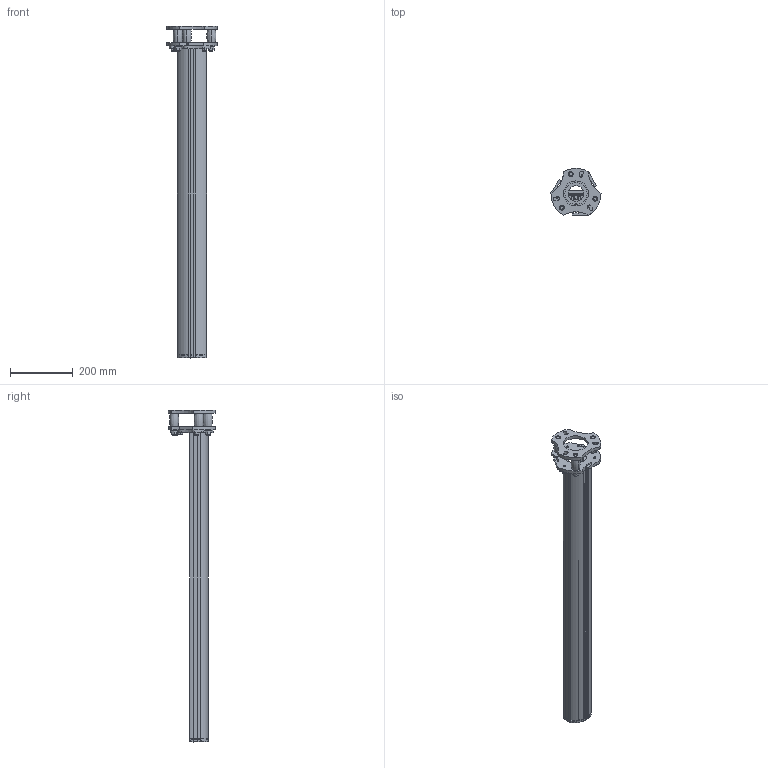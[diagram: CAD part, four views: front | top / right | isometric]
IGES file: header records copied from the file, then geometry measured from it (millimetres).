
Global section: file name: No Iges File Name specified; native system: Autodesk Inventor 2009; preprocessor: AutoDesk Inventor Iges Exporter R2009; author: seisen; date: 20120711.102912; units: millimetre
Bounding box: 160 x 150.44 x 1059.98 mm (x, y, z)
Volume: 1749233 mm3; surface area: 1184205.6 mm2
Topology: 22 solids, 23 shells, 503 faces, 1295 edges, 852 vertices
Faces by surface type: plane 172, revolution 119, bspline 87, cylinder 86, cone 32, torus 7
